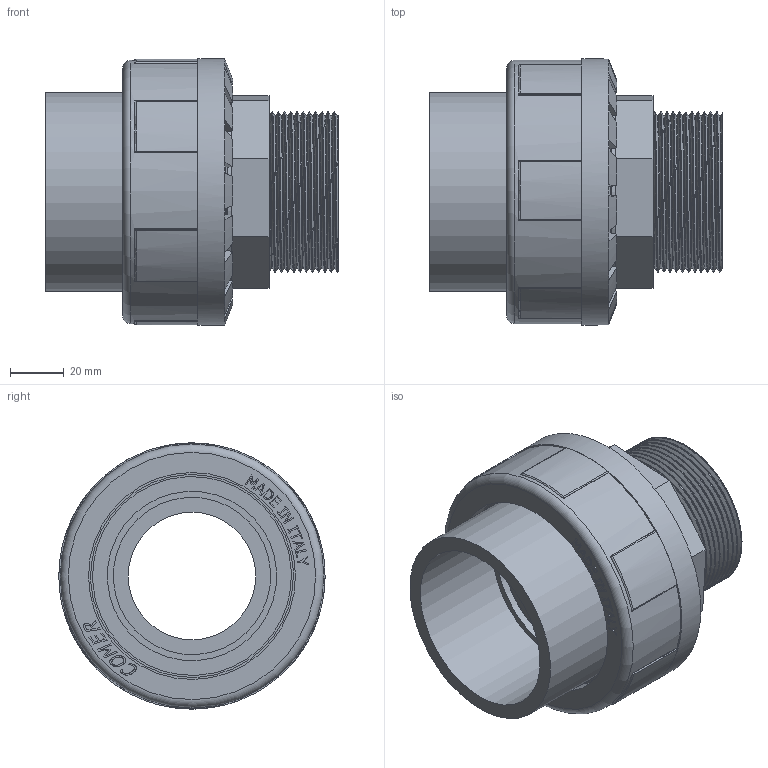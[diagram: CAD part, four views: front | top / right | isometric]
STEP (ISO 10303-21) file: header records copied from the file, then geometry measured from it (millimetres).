
FILE_DESCRIPTION(/* description */ (''),/* implementation_level */ '2;1');
FILE_NAME(/* name */ 'C:\Users\e.sacchi\Desktop\US82\US82063G\US82063G.stp',/* time_stamp */ '2018-06-28T11:45:24+02:00',/* author */ ('e.sacchi'),/* organization */ (''),/* preprocessor_version */ 'ST-DEVELOPER v16.13',/* originating_system */ 'Autodesk Inventor 2018',/* authorisation */ '');
FILE_SCHEMA (('AUTOMOTIVE_DESIGN { 1 0 10303 214 3 1 1 }'));
Length unit declared in the file: millimetre
Products named in the file (5): UN800630; UB830630; NU830630; UE830630; LAV6237E
Assembly tree (4 placements, depth 2):
  UN800630
    UB830630
    NU830630
    UE830630
    LAV6237E
Bounding box: 108.7 x 98.99 x 99 mm (x, y, z)
Volume: 294360.2 mm3; surface area: 140744.9 mm2
Topology: 7 solids, 7 shells, 416 faces, 1046 edges, 673 vertices
Faces by surface type: plane 267, bspline 63, cylinder 40, cone 38, torus 8
Full cylindrical faces by diameter (mm): 47.47 x1, 49.47 x1, 56.596 x2, 58.5 x1, 59 x1, 63 x1, 70 x1, 74 x1, 75.5 x1, 77 x1, 78.5 x1, 78.516 x2, 81.53 x3, 98 x1, 99 x1
Entity records: 31080 total; most frequent: CARTESIAN_POINT 21410, ORIENTED_EDGE 2036, DIRECTION 1767, EDGE_CURVE 1018, LINE 675, VECTOR 675, VERTEX_POINT 667, AXIS2_PLACEMENT_3D 546
